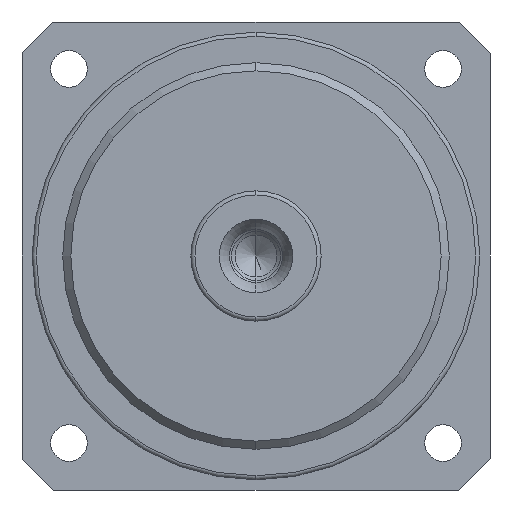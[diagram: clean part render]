
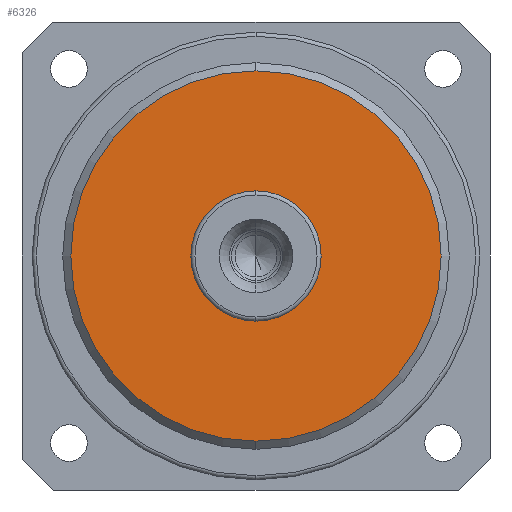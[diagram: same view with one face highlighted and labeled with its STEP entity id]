
A CAD part, left-side view. The second image highlights one B-rep face of the part: STEP entity #6326.
In plain terms, the highlighted planar face has unit normal (-1, 0, 0) as drawn and (0, 0, -1) by its records, which use the part's own axes.
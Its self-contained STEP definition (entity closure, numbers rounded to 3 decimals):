
#5129=CARTESIAN_POINT('',(0.,0.,-14.));
#5130=DIRECTION('',(0.,0.,1.));
#5131=DIRECTION('',(0.,-1.,0.));
#5132=AXIS2_PLACEMENT_3D('',#5129,#5130,#5131);
#5134=CARTESIAN_POINT('',(0.,0.,-14.));
#5135=DIRECTION('',(0.,0.,-1.));
#5136=DIRECTION('',(0.,-1.,0.));
#5137=AXIS2_PLACEMENT_3D('',#5134,#5135,#5136);
#5147=CARTESIAN_POINT('',(0.,0.,-14.));
#5148=DIRECTION('',(0.,0.,-1.));
#5149=DIRECTION('',(0.,-1.,0.));
#5150=AXIS2_PLACEMENT_3D('',#5147,#5148,#5149);
#5152=CARTESIAN_POINT('',(0.,0.,-14.));
#5153=DIRECTION('',(0.,0.,1.));
#5154=DIRECTION('',(0.,-1.,0.));
#5155=AXIS2_PLACEMENT_3D('',#5152,#5153,#5154);
#5284=CARTESIAN_POINT('',(0.,-45.5,-14.));
#5286=VERTEX_POINT('',#5284);
#5287=CARTESIAN_POINT('',(0.,-16.,-14.));
#5289=VERTEX_POINT('',#5287);
#5298=CARTESIAN_POINT('',(0.,45.5,-14.));
#5300=VERTEX_POINT('',#5298);
#5301=CARTESIAN_POINT('',(0.,16.,-14.));
#5303=VERTEX_POINT('',#5301);
#6311=CARTESIAN_POINT('',(0.,0.,-14.));
#6312=DIRECTION('',(0.,0.,1.));
#6313=DIRECTION('',(0.,1.,0.));
#6314=AXIS2_PLACEMENT_3D('',#6311,#6312,#6313);
#6315=PLANE('',#6314);
#6316=ORIENTED_EDGE('',*,*,#6306,.T.);
#6317=ORIENTED_EDGE('',*,*,#6290,.F.);
#6318=EDGE_LOOP('',(#6316,#6317));
#6319=FACE_OUTER_BOUND('',#6318,.F.);
#6321=ORIENTED_EDGE('',*,*,#6320,.T.);
#6323=ORIENTED_EDGE('',*,*,#6322,.F.);
#6324=EDGE_LOOP('',(#6321,#6323));
#6325=FACE_BOUND('',#6324,.F.);
#6326=ADVANCED_FACE('',(#6319,#6325),#6315,.F.);
#5133=CIRCLE('',#5132,45.5);
#5138=CIRCLE('',#5137,45.5);
#5151=CIRCLE('',#5150,16.);
#5156=CIRCLE('',#5155,16.);
#6290=EDGE_CURVE('',#5286,#5300,#5138,.T.);
#6306=EDGE_CURVE('',#5286,#5300,#5133,.T.);
#6320=EDGE_CURVE('',#5289,#5303,#5151,.T.);
#6322=EDGE_CURVE('',#5289,#5303,#5156,.T.);
